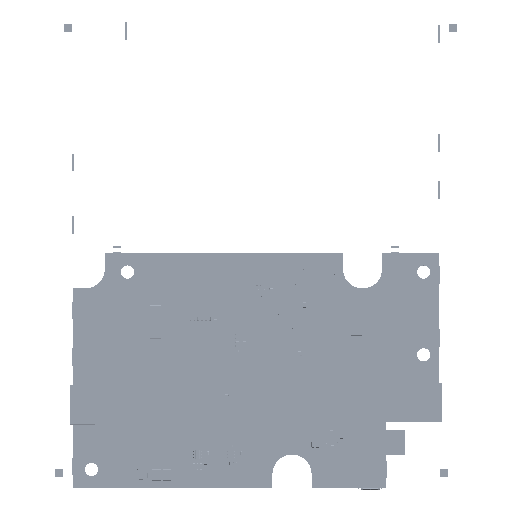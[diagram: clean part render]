
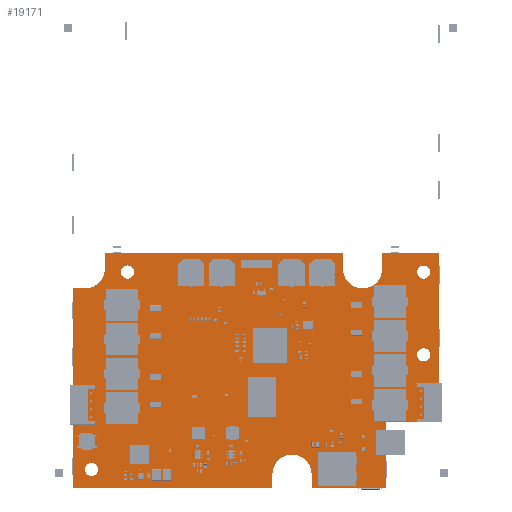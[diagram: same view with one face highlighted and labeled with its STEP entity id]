
A CAD part, top view. The second image highlights one B-rep face of the part: STEP entity #19171.
In plain terms, the highlighted planar face has unit normal (0, 0, 1).
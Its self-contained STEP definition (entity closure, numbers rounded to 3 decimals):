
#19171=ADVANCED_FACE('',(#31886,#31887,#31888,#31889,#31890),#31891,.T.);
#31886=FACE_BOUND('',#45351,.T.);
#31887=FACE_BOUND('',#45352,.T.);
#31888=FACE_BOUND('',#45353,.T.);
#31889=FACE_BOUND('',#45354,.T.);
#31890=FACE_OUTER_BOUND('',#45355,.T.);
#31891=PLANE('',#45356);
#45351=EDGE_LOOP('',(#62705));
#45352=EDGE_LOOP('',(#62706));
#45353=EDGE_LOOP('',(#62707));
#45354=EDGE_LOOP('',(#62708));
#45355=EDGE_LOOP('',(#62709,#62710,#62711,#62712,#62713,#62714,#62715,#62716,#62717,#62718,#62719,#62720,#62721,#62722,#62723,#62724,#62725));
#45356=AXIS2_PLACEMENT_3D('',#62726,#62727,#62728);
#62705=ORIENTED_EDGE('',*,*,#79041,.T.);
#62706=ORIENTED_EDGE('',*,*,#79044,.T.);
#62707=ORIENTED_EDGE('',*,*,#79047,.T.);
#62708=ORIENTED_EDGE('',*,*,#79050,.T.);
#62709=ORIENTED_EDGE('',*,*,#79053,.T.);
#62710=ORIENTED_EDGE('',*,*,#79054,.T.);
#62711=ORIENTED_EDGE('',*,*,#79055,.T.);
#62712=ORIENTED_EDGE('',*,*,#79056,.T.);
#62713=ORIENTED_EDGE('',*,*,#79057,.T.);
#62714=ORIENTED_EDGE('',*,*,#79058,.T.);
#62715=ORIENTED_EDGE('',*,*,#79059,.T.);
#62716=ORIENTED_EDGE('',*,*,#79060,.T.);
#62717=ORIENTED_EDGE('',*,*,#79061,.T.);
#62718=ORIENTED_EDGE('',*,*,#79062,.T.);
#62719=ORIENTED_EDGE('',*,*,#79063,.T.);
#62720=ORIENTED_EDGE('',*,*,#79064,.T.);
#62721=ORIENTED_EDGE('',*,*,#79065,.T.);
#62722=ORIENTED_EDGE('',*,*,#79066,.T.);
#62723=ORIENTED_EDGE('',*,*,#79067,.T.);
#62724=ORIENTED_EDGE('',*,*,#79068,.T.);
#62725=ORIENTED_EDGE('',*,*,#79069,.T.);
#62726=CARTESIAN_POINT('',(60.07,37.993,1.6));
#62727=DIRECTION('',(0.,0.,1.0));
#62728=DIRECTION('',(1.0,0.0,0.));
#79041=EDGE_CURVE('',#94529,#94529,#94530,.T.);
#79044=EDGE_CURVE('',#94534,#94534,#94535,.T.);
#79047=EDGE_CURVE('',#94539,#94539,#94540,.T.);
#79050=EDGE_CURVE('',#94544,#94544,#94545,.T.);
#79053=EDGE_CURVE('',#94549,#94550,#94551,.T.);
#79054=EDGE_CURVE('',#94550,#94552,#94553,.T.);
#79055=EDGE_CURVE('',#94552,#94554,#94555,.T.);
#79056=EDGE_CURVE('',#94554,#94556,#94557,.T.);
#79057=EDGE_CURVE('',#94556,#94558,#94559,.T.);
#79058=EDGE_CURVE('',#94558,#94560,#94561,.T.);
#79059=EDGE_CURVE('',#94560,#94562,#94563,.T.);
#79060=EDGE_CURVE('',#94562,#94564,#94565,.T.);
#79061=EDGE_CURVE('',#94564,#94566,#94567,.T.);
#79062=EDGE_CURVE('',#94566,#94568,#94569,.T.);
#79063=EDGE_CURVE('',#94568,#94570,#94571,.T.);
#79064=EDGE_CURVE('',#94570,#94572,#94573,.T.);
#79065=EDGE_CURVE('',#94572,#94574,#94575,.T.);
#79066=EDGE_CURVE('',#94574,#94576,#94577,.T.);
#79067=EDGE_CURVE('',#94576,#94578,#94579,.T.);
#79068=EDGE_CURVE('',#94578,#94580,#94581,.T.);
#79069=EDGE_CURVE('',#94580,#94549,#94582,.T.);
#94529=VERTEX_POINT('',#115856);
#94530=CIRCLE('',#115857,2.1);
#94534=VERTEX_POINT('',#115861);
#94535=CIRCLE('',#115862,2.1);
#94539=VERTEX_POINT('',#115866);
#94540=CIRCLE('',#115867,2.1);
#94544=VERTEX_POINT('',#115871);
#94545=CIRCLE('',#115872,2.1);
#94549=VERTEX_POINT('',#115876);
#94550=VERTEX_POINT('',#115877);
#94551=LINE('',#115878,#115879);
#94552=VERTEX_POINT('',#115880);
#94553=LINE('',#115881,#115882);
#94554=VERTEX_POINT('',#115883);
#94555=CIRCLE('',#115884,6.25);
#94556=VERTEX_POINT('',#115885);
#94557=LINE('',#115886,#115887);
#94558=VERTEX_POINT('',#115888);
#94559=LINE('',#115889,#115890);
#94560=VERTEX_POINT('',#115891);
#94561=LINE('',#115892,#115893);
#94562=VERTEX_POINT('',#115894);
#94563=LINE('',#115895,#115896);
#94564=VERTEX_POINT('',#115897);
#94565=LINE('',#115898,#115899);
#94566=VERTEX_POINT('',#115900);
#94567=LINE('',#115901,#115902);
#94568=VERTEX_POINT('',#115903);
#94569=LINE('',#115904,#115905);
#94570=VERTEX_POINT('',#115906);
#94571=CIRCLE('',#115907,6.25);
#94572=VERTEX_POINT('',#115908);
#94573=LINE('',#115909,#115910);
#94574=VERTEX_POINT('',#115911);
#94575=LINE('',#115912,#115913);
#94576=VERTEX_POINT('',#115914);
#94577=LINE('',#115915,#115916);
#94578=VERTEX_POINT('',#115917);
#94579=CIRCLE('',#115918,6.25);
#94580=VERTEX_POINT('',#115919);
#94581=LINE('',#115920,#115921);
#94582=LINE('',#115922,#115923);
#115856=CARTESIAN_POINT('',(109.9,42.6,1.6));
#115857=AXIS2_PLACEMENT_3D('',#131042,#131043,#131044);
#115861=CARTESIAN_POINT('',(3.9,6.0,1.6));
#115862=AXIS2_PLACEMENT_3D('',#131048,#131049,#131050);
#115866=CARTESIAN_POINT('',(15.4,69.0,1.6));
#115867=AXIS2_PLACEMENT_3D('',#131054,#131055,#131056);
#115871=CARTESIAN_POINT('',(109.9,69.0,1.6));
#115872=AXIS2_PLACEMENT_3D('',#131060,#131061,#131062);
#115876=CARTESIAN_POINT('',(-0.004,0.016,1.6));
#115877=CARTESIAN_POINT('',(63.746,0.016,1.6));
#115878=CARTESIAN_POINT('',(31.871,0.016,1.6));
#115879=VECTOR('',#131066,1.0);
#115880=CARTESIAN_POINT('',(63.746,4.516,1.6));
#115881=CARTESIAN_POINT('',(63.746,2.266,1.6));
#115882=VECTOR('',#131067,1.0);
#115883=CARTESIAN_POINT('',(76.246,4.516,1.6));
#115884=AXIS2_PLACEMENT_3D('',#131068,#131069,#131070);
#115885=CARTESIAN_POINT('',(76.246,0.016,1.6));
#115886=CARTESIAN_POINT('',(76.246,2.266,1.6));
#115887=VECTOR('',#131071,1.0);
#115888=CARTESIAN_POINT('',(99.996,0.016,1.6));
#115889=CARTESIAN_POINT('',(88.121,0.016,1.6));
#115890=VECTOR('',#131072,1.0);
#115891=CARTESIAN_POINT('',(99.996,21.016,1.6));
#115892=CARTESIAN_POINT('',(99.996,10.516,1.6));
#115893=VECTOR('',#131073,1.0);
#115894=CARTESIAN_POINT('',(116.996,21.016,1.6));
#115895=CARTESIAN_POINT('',(108.496,21.016,1.6));
#115896=VECTOR('',#131074,1.0);
#115897=CARTESIAN_POINT('',(116.996,75.016,1.6));
#115898=CARTESIAN_POINT('',(116.996,48.016,1.6));
#115899=VECTOR('',#131075,1.0);
#115900=CARTESIAN_POINT('',(98.746,75.016,1.6));
#115901=CARTESIAN_POINT('',(107.871,75.016,1.6));
#115902=VECTOR('',#131076,1.0);
#115903=CARTESIAN_POINT('',(98.746,70.016,1.6));
#115904=CARTESIAN_POINT('',(98.746,72.516,1.6));
#115905=VECTOR('',#131077,1.0);
#115906=CARTESIAN_POINT('',(86.246,70.016,1.6));
#115907=AXIS2_PLACEMENT_3D('',#131078,#131079,#131080);
#115908=CARTESIAN_POINT('',(86.246,75.016,1.6));
#115909=CARTESIAN_POINT('',(86.246,72.516,1.6));
#115910=VECTOR('',#131081,1.0);
#115911=CARTESIAN_POINT('',(10.246,75.016,1.6));
#115912=CARTESIAN_POINT('',(48.246,75.016,1.6));
#115913=VECTOR('',#131082,1.0);
#115914=CARTESIAN_POINT('',(10.246,70.016,1.6));
#115915=CARTESIAN_POINT('',(10.246,72.516,1.6));
#115916=VECTOR('',#131083,1.0);
#115917=CARTESIAN_POINT('',(3.996,63.766,1.6));
#115918=AXIS2_PLACEMENT_3D('',#131084,#131085,#131086);
#115919=CARTESIAN_POINT('',(-0.004,63.766,1.6));
#115920=CARTESIAN_POINT('',(1.996,63.766,1.6));
#115921=VECTOR('',#131087,1.0);
#115922=CARTESIAN_POINT('',(-0.004,31.891,1.6));
#115923=VECTOR('',#131088,1.0);
#131042=CARTESIAN_POINT('',(112.0,42.6,1.6));
#131043=DIRECTION('',(0.,0.,-1.0));
#131044=DIRECTION('',(-1.0,0.,0.));
#131048=CARTESIAN_POINT('',(6.0,6.0,1.6));
#131049=DIRECTION('',(0.,0.,-1.0));
#131050=DIRECTION('',(-1.0,0.,0.));
#131054=CARTESIAN_POINT('',(17.5,69.0,1.6));
#131055=DIRECTION('',(0.,0.,-1.0));
#131056=DIRECTION('',(-1.0,0.,0.));
#131060=CARTESIAN_POINT('',(112.0,69.0,1.6));
#131061=DIRECTION('',(0.,0.,-1.0));
#131062=DIRECTION('',(-1.0,0.,0.));
#131066=DIRECTION('',(1.0,0.0,0.0));
#131067=DIRECTION('',(0.0,1.0,0.0));
#131068=CARTESIAN_POINT('',(69.996,4.516,1.6));
#131069=DIRECTION('',(0.0,0.0,-1.0));
#131070=DIRECTION('',(-1.0,0.0,0.0));
#131071=DIRECTION('',(0.,-1.0,0.0));
#131072=DIRECTION('',(1.0,0.,0.0));
#131073=DIRECTION('',(0.0,1.0,0.0));
#131074=DIRECTION('',(1.0,0.0,0.0));
#131075=DIRECTION('',(0.0,1.0,0.0));
#131076=DIRECTION('',(-1.0,0.0,0.0));
#131077=DIRECTION('',(0.0,-1.0,0.0));
#131078=CARTESIAN_POINT('',(92.496,70.016,1.6));
#131079=DIRECTION('',(0.0,0.0,-1.0));
#131080=DIRECTION('',(1.,0.,0.0));
#131081=DIRECTION('',(0.,1.,0.0));
#131082=DIRECTION('',(-1.0,0.0,0.0));
#131083=DIRECTION('',(0.,-1.0,0.0));
#131084=CARTESIAN_POINT('',(3.996,70.016,1.6));
#131085=DIRECTION('',(0.0,0.0,-1.0));
#131086=DIRECTION('',(1.,0.,0.0));
#131087=DIRECTION('',(-1.0,0.,0.0));
#131088=DIRECTION('',(0.,-1.0,0.0));
